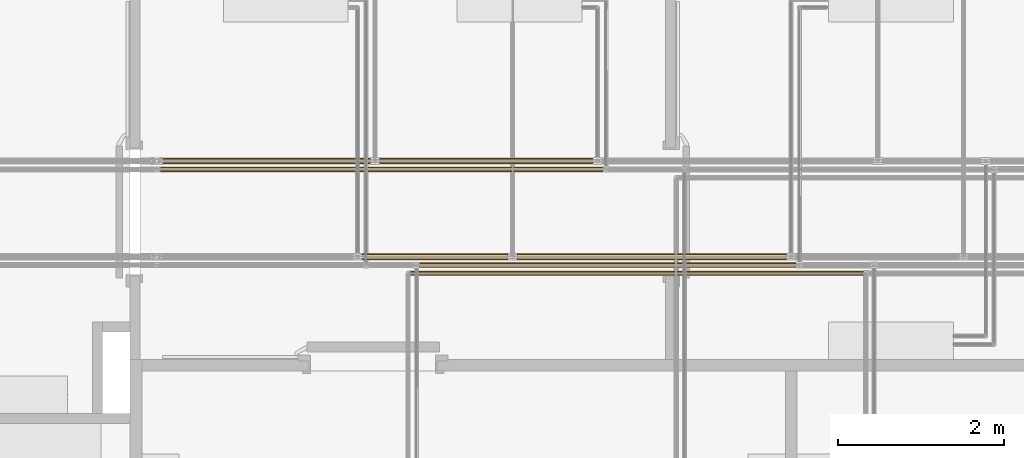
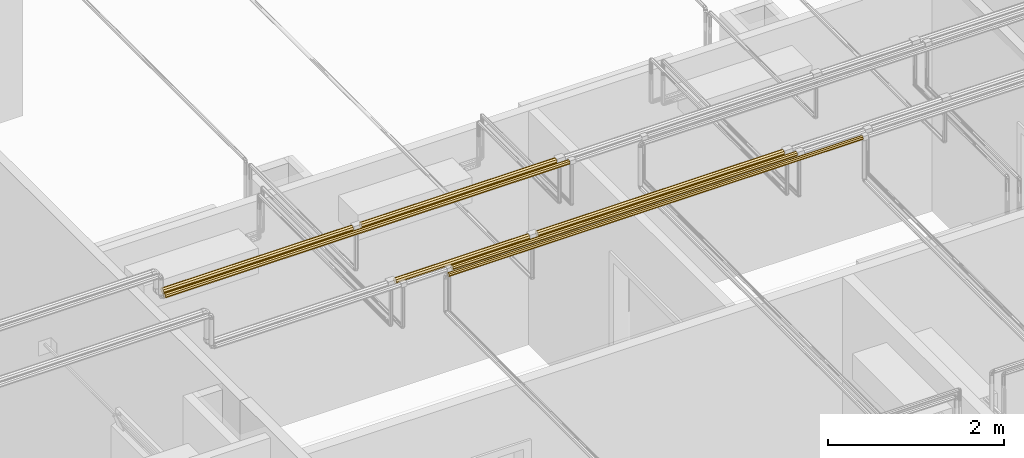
# One storey, part 89 of 652: 7 coverings.
"""IFC2X3 building model written with IfcOpenShell, lengths in millimetres."""

from ifc_helpers import new_model, entity, si_unit, converted_unit, direction, frame, origin, place, context, subcontext, project, spatial, faceted_brep, material, type_object, element, save


model = new_model("IFC2X3")

# Units and contexts
model_context = context("Model", 3, precision=0.01, world=frame((0.0, 0.0, 308426.39999999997)), true_north=direction((6.123233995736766e-17, 1.0)))
plan_context = context("Plan", 3, precision=0.01, world=frame((0.0, 0.0, 308426.39999999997)), true_north=direction((6.123233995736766e-17, 1.0)))
body_context = subcontext(model_context, "Body", "Model", "MODEL_VIEW")
ifc_project = project(units=[si_unit("LENGTHUNIT", "METRE", prefix="MILLI"), si_unit("AREAUNIT", "SQUARE_METRE"), si_unit("VOLUMEUNIT", "CUBIC_METRE"), converted_unit("PLANEANGLEUNIT", "DEGREE", entity("IfcPlaneAngleMeasure", 0.017453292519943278), si_unit("PLANEANGLEUNIT", "RADIAN"), dimensions=[0, 0, 0, 0, 0, 0, 0])], contexts=[model_context, plan_context])

# Site, building, storey
site_placement = place(None, origin())
site = spatial("IfcSite", under=ifc_project, at=site_placement, Name="Default", CompositionType="ELEMENT")
building_placement = place(site_placement, origin())
building = spatial("IfcBuilding", under=site, at=building_placement, CompositionType="ELEMENT")
storey_placement = place(building_placement, frame((0.0, 0.0, 1730.6999999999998)))
storey = spatial("IfcBuildingStorey", under=building, at=storey_placement, Name="EG_Produktion_FFB", CompositionType="ELEMENT", Elevation=1730.6999999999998)

# Coverings
ifc_material = material(Name="Dämmung - Armaflex-Schlauch")
covering_type = type_object("IfcCoveringType", Name="Rohrdämmung außen:Armaflex-Schlauch", PredefinedType="INSULATION")
covering_1_placement = place(storey_placement, frame((22625.726571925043, 59818.292227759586, 3868.292227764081)))
element("IfcCovering", 1, at=covering_1_placement, inside=storey, type_object=covering_type, material=ifc_material, Name="Rohrdämmung außen:Armaflex-Schlauch", ObjectType="Rohrdämmung außen:Armaflex-Schlauch", PredefinedType="INSULATION", context=body_context, shape_type="Brep", body=[
    faceted_brep([(4527.2251780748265, 61.82027223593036, 31.70777223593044), (4527.2251780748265, 59.165835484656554, 38.11614944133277), (4527.2251780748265, 57.410398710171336, 42.35414871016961), (4527.2251780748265, 55.205461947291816, 47.67733694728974), (4527.2251780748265, 53.000525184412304, 53.00052518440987), (4527.2251780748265, 47.67733694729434, 55.205461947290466), (4527.2251780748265, 42.35414871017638, 57.41039871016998), (4527.2251780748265, 37.03096047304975, 59.61533547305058), (4527.2251780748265, 31.707772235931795, 61.82027223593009), (4527.2251780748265, 25.299395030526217, 59.16583548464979), (4527.2251780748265, 21.06139576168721, 57.41039871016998), (4527.225178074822, 15.738207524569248, 55.20546194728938), (4527.2251780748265, 10.415019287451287, 53.00052518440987), (4527.225178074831, 8.210082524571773, 47.67733694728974), (4527.2251780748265, 6.005145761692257, 42.35414871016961), (4527.2251780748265, 3.800208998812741, 37.03096047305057), (4527.2251780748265, 1.5952722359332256, 31.70777223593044), (4527.2251780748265, 3.800208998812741, 26.384583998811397), (4527.2251780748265, 6.005145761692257, 21.06139576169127), (4527.225178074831, 8.210082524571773, 15.738207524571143), (4527.2251780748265, 10.415019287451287, 10.415019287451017), (4527.2251780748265, 15.738207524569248, 8.2100825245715), (4527.2251780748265, 21.06139576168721, 6.005145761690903), (4527.225178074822, 26.38458399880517, 3.8002089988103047), (4527.2251780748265, 31.707772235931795, 1.5952722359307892), (4527.2251780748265, 38.11614944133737, 4.249708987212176), (4527.2251780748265, 42.35414871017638, 6.005145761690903), (4527.2251780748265, 47.67733694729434, 8.2100825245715), (4527.2251780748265, 53.000525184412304, 10.415019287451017), (4527.2251780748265, 55.205461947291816, 15.738207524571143), (4527.2251780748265, 57.410398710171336, 21.06139576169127), (4527.225178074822, 59.61533547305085, 26.384583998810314), (0.0, 47.677336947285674, 8.210082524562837), (0.0, 42.35414871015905, 6.005145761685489), (0.0, 37.03096047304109, 3.800208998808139), (0.0, 31.70777223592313, 1.595272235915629), (0.0, 25.29939503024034, 4.249708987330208), (0.0, 18.891017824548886, 6.904145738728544), (0.0, 10.415019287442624, 10.415019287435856), (0.0, 8.210082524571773, 15.738207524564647), (0.0, 6.005145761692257, 21.061395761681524), (0.0, 3.800208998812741, 26.3845839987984), (0.0, 1.5952722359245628, 31.707772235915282), (0.0, 4.249708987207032, 38.116149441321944), (0.0, 6.904145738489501, 44.524526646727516), (0.0, 10.415019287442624, 53.000525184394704), (0.0, 15.738207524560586, 55.20546194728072), (0.0, 21.06139576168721, 57.410398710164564), (0.0, 26.38458399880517, 59.61533547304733), (0.0, 31.70777223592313, 61.820272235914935), (0.0, 38.11614944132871, 59.16583548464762), (0.0, 44.52452664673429, 56.511398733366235), (0.0, 53.000525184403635, 53.000525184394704), (0.0, 55.205461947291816, 47.677336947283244), (0.0, 57.410398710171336, 42.35414871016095), (0.0, 59.61533547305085, 37.030960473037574), (0.0, 61.8202722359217, 31.707772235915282), (0.0, 59.16583548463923, 25.29939503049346), (0.0, 56.511398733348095, 18.89101782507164), (0.0, 53.000525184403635, 10.415019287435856)], [[[0, 1, 2, 3, 4, 5, 6, 7, 8, 9, 10, 11, 12, 13, 14, 15, 16, 17, 18, 19, 20, 21, 22, 23, 24, 25, 26, 27, 28, 29, 30, 31]], [[32, 33, 34, 35, 36, 37, 38, 39, 40, 41, 42, 43, 44, 45, 46, 47, 48, 49, 50, 51, 52, 53, 54, 55, 56, 57, 58, 59]], [[40, 39, 38, 20, 19, 18, 17, 16, 42, 41]], [[38, 37, 36, 35, 24, 23, 22, 21, 20]], [[56, 0, 31, 30, 29, 28, 59, 58, 57]], [[27, 26, 25, 24, 35, 34, 33, 32, 59, 28]], [[49, 8, 7, 6, 5, 4, 52, 51, 50]], [[3, 2, 1, 0, 56, 55, 54, 53, 52, 4]], [[42, 16, 15, 14, 13, 12, 45, 44, 43]], [[11, 10, 9, 8, 49, 48, 47, 46, 45, 12]]]),
])
covering_2_placement = place(storey_placement, frame((19516.017249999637, 60968.29222776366, 3868.2922277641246)))
element("IfcCovering", 2, at=covering_2_placement, inside=storey, type_object=covering_type, material=ifc_material, Name="Rohrdämmung außen:Armaflex-Schlauch", ObjectType="Rohrdämmung außen:Armaflex-Schlauch", PredefinedType="INSULATION", context=body_context, shape_type="Brep", body=[
    faceted_brep([(5312.723077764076, 61.82027223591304, 31.70777223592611), (5312.723077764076, 59.55829985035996, 37.16865664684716), (5312.723077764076, 57.410398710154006, 42.35414871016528), (5312.723077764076, 55.205461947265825, 47.677336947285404), (5312.723077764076, 53.000525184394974, 53.00052518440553), (5312.723077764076, 47.67733694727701, 55.20546194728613), (5312.723077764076, 42.35414871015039, 57.410398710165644), (5312.723077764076, 37.16865664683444, 59.55829985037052), (5312.723077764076, 31.70777223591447, 61.82027223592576), (5312.723077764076, 26.2468878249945, 59.55829985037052), (5312.723077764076, 21.061395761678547, 57.410398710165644), (5312.723077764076, 15.738207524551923, 55.20546194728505), (5312.723077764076, 10.415019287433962, 53.00052518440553), (5312.723077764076, 8.210082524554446, 47.677336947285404), (5312.723077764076, 6.005145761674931, 42.35414871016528), (5312.723077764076, 3.8572446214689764, 37.16865664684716), (5312.723077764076, 1.5952722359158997, 31.70777223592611), (5312.723077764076, 3.8002089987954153, 26.384583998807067), (5312.723077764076, 6.005145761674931, 21.06139576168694), (5312.723077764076, 8.210082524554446, 15.738207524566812), (5312.723077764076, 10.415019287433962, 10.415019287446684), (5312.723077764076, 15.738207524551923, 8.21008252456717), (5312.723077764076, 21.061395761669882, 6.005145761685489), (5312.723077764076, 26.246887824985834, 3.8572446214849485), (5312.723077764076, 31.70777223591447, 1.5952722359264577), (5312.723077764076, 37.16865664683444, 3.8572446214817), (5312.723077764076, 42.35414871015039, 6.005145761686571), (5312.723077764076, 47.67733694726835, 8.210082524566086), (5312.723077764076, 53.000525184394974, 10.415019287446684), (5312.723077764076, 55.20546194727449, 15.738207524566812), (5312.723077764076, 57.410398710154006, 21.06139576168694), (5312.723077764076, 59.55829985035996, 26.246887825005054), (0.0, 47.677336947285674, 8.210082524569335), (0.0, 42.35414871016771, 6.005145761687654), (0.0, 37.03096047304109, 3.800208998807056), (0.0, 31.707772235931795, 1.595272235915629), (0.0, 26.246887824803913, 3.857244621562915), (0.0, 20.78600341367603, 6.119217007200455), (0.0, 15.600511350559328, 8.267118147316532), (0.0, 10.415019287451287, 10.415019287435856), (0.0, 8.210082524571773, 15.738207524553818), (0.0, 6.005145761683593, 21.061395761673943), (0.0, 3.8002089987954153, 26.38458399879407), (0.0, 1.5952722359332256, 31.707772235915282), (0.0, 3.8572446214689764, 37.16865664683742), (0.0, 6.119217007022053, 42.62954105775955), (0.0, 8.267118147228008, 47.81503312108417), (0.0, 10.415019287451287, 53.000525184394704), (0.0, 15.738207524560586, 55.20546194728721), (0.0, 21.061395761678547, 57.41039871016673), (0.0, 26.38458399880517, 59.615335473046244), (0.0, 31.707772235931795, 61.820272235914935), (0.0, 37.168656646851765, 59.55829985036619), (0.0, 42.6295410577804, 57.296327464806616), (0.0, 47.81503312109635, 55.148426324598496), (0.0, 53.000525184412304, 53.000525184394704), (0.0, 55.205461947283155, 47.677336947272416), (0.0, 57.41039871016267, 42.35414871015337), (0.0, 59.61533547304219, 37.03096047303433), (0.0, 61.82027223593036, 31.707772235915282), (0.0, 59.5582998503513, 26.246887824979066), (0.0, 57.296327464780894, 20.786003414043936), (0.0, 55.148426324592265, 15.600511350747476), (0.0, 53.000525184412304, 10.415019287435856)], [[[0, 1, 2, 3, 4, 5, 6, 7, 8, 9, 10, 11, 12, 13, 14, 15, 16, 17, 18, 19, 20, 21, 22, 23, 24, 25, 26, 27, 28, 29, 30, 31]], [[32, 33, 34, 35, 36, 37, 38, 39, 40, 41, 42, 43, 44, 45, 46, 47, 48, 49, 50, 51, 52, 53, 54, 55, 56, 57, 58, 59, 60, 61, 62, 63]], [[41, 40, 39, 20, 19, 18, 17, 16, 43, 42]], [[20, 39, 38, 37, 36, 35, 24, 23, 22, 21]], [[24, 35, 34, 33, 32, 63, 28, 27, 26, 25]], [[28, 63, 62, 61, 60, 59, 0, 31, 30, 29]], [[0, 59, 58, 57, 56, 55, 4, 3, 2, 1]], [[4, 55, 54, 53, 52, 51, 8, 7, 6, 5]], [[8, 51, 50, 49, 48, 47, 12, 11, 10, 9]], [[12, 47, 46, 45, 44, 43, 16, 15, 14, 13]]]),
])
covering_3_placement = place(storey_placement, frame((23799.63222359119, 59911.942227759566, 3861.9422277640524)))
element("IfcCovering", 3, at=covering_3_placement, inside=storey, type_object=covering_type, material=ifc_material, Name="Rohrdämmung außen:Armaflex-Schlauch", ObjectType="Rohrdämmung außen:Armaflex-Schlauch", PredefinedType="INSULATION", context=body_context, shape_type="Brep", body=[
    faceted_brep([(3235.9205264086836, 74.52027223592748, 38.057772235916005), (3235.920526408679, 72.04612193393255, 44.03089945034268), (3235.9205264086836, 69.180462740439, 50.949212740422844), (3235.9205264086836, 66.51055799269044, 57.39493299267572), (3235.9205264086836, 63.84065324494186, 63.84065324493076), (3235.9205264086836, 57.394932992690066, 66.51055799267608), (3235.9205264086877, 50.94921274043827, 69.18046274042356), (3235.9205264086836, 44.50349248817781, 71.85036748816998), (3235.9205264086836, 38.057772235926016, 74.52027223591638), (3235.9205264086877, 32.084645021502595, 72.04612193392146), (3235.9205264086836, 25.166331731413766, 69.18046274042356), (3235.9205264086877, 18.720611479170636, 66.51055799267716), (3235.9205264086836, 12.274891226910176, 63.84065324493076), (3235.9205264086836, 9.604986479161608, 57.3949329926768), (3235.9205264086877, 6.935081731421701, 50.949212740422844), (3235.9205264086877, 4.265176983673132, 44.50349248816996), (3235.9205264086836, 1.5952722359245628, 38.057772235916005), (3235.9205264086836, 4.265176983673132, 31.612051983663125), (3235.9205264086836, 6.935081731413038, 25.166331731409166), (3235.920526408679, 9.604986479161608, 18.720611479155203), (3235.9205264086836, 12.274891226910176, 12.274891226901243), (3235.9205264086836, 18.72061147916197, 9.60498647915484), (3235.9205264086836, 25.166331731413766, 6.935081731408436), (3235.920526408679, 31.612051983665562, 4.265176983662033), (3235.9205264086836, 38.057772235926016, 1.595272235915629), (3235.9205264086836, 44.030899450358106, 4.069422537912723), (3235.9205264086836, 50.94921274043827, 6.935081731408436), (3235.9205264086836, 57.394932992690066, 9.604986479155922), (3235.9205264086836, 63.84065324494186, 12.274891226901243), (3235.9205264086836, 66.51055799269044, 18.720611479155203), (3235.9205264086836, 69.180462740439, 25.166331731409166), (3235.9205264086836, 71.8503674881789, 31.612051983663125), (0.0, 57.394932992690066, 9.60498647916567), (0.0, 50.94921274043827, 6.935081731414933), (0.0, 44.50349248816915, 4.265176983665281), (0.0, 38.057772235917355, 1.5952722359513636), (0.0, 32.08464502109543, 4.069422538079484), (0.0, 26.111517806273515, 6.543572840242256), (0.0, 19.193204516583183, 9.40923203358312), (0.0, 12.274891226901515, 12.274891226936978), (0.0, 9.604986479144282, 18.720611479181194), (0.0, 6.935081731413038, 25.166331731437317), (0.0, 4.265176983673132, 31.61205198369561), (0.0, 1.5952722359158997, 38.05777223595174), (0.0, 4.069422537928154, 44.03089945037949), (0.0, 6.543572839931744, 50.00402666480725), (0.0, 9.409232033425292, 56.922339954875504), (0.0, 12.274891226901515, 63.8406532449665), (0.0, 18.720611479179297, 66.51055799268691), (0.0, 25.166331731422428, 69.18046274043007), (0.0, 31.612051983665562, 71.85036748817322), (0.0, 38.057772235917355, 74.5202722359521), (0.0, 44.030899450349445, 72.04612193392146), (0.0, 50.004026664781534, 69.57197163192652), (0.0, 56.92233995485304, 66.70631243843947), (0.0, 63.8406532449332, 63.8406532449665), (0.0, 66.5105579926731, 57.394932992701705), (0.0, 69.18046274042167, 50.94921274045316), (0.0, 71.85036748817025, 44.50349248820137), (0.0, 74.52027223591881, 38.05777223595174), (0.0, 72.04612193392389, 32.084645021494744), (0.0, 69.57197163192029, 26.11151780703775), (0.0, 66.7063124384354, 19.193204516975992), (0.0, 63.8406532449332, 12.274891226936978)], [[[0, 1, 2, 3, 4, 5, 6, 7, 8, 9, 10, 11, 12, 13, 14, 15, 16, 17, 18, 19, 20, 21, 22, 23, 24, 25, 26, 27, 28, 29, 30, 31]], [[32, 33, 34, 35, 36, 37, 38, 39, 40, 41, 42, 43, 44, 45, 46, 47, 48, 49, 50, 51, 52, 53, 54, 55, 56, 57, 58, 59, 60, 61, 62, 63]], [[41, 40, 39, 20, 19, 18, 17, 16, 43, 42]], [[37, 36, 35, 24, 23, 22, 21, 20, 39, 38]], [[25, 24, 35, 34, 33, 32, 63, 28, 27, 26]], [[28, 63, 62, 61, 60, 59, 0, 31, 30, 29]], [[1, 0, 59, 58, 57, 56, 55, 4, 3, 2]], [[4, 55, 54, 53, 52, 51, 8, 7, 6, 5]], [[9, 8, 51, 50, 49, 48, 47, 12, 11, 10]], [[12, 47, 46, 45, 44, 43, 16, 15, 14, 13]]]),
])
covering_4_placement = place(storey_placement, frame((22146.75968313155, 61061.942227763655, 3861.942227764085)))
element("IfcCovering", 4, at=covering_4_placement, inside=storey, type_object=covering_type, material=ifc_material, Name="Rohrdämmung außen:Armaflex-Schlauch", ObjectType="Rohrdämmung außen:Armaflex-Schlauch", PredefinedType="INSULATION", context=body_context, shape_type="Brep", body=[
    faceted_brep([(2564.581644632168, 74.52027223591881, 38.0577722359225), (2564.581644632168, 71.39845555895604, 45.594504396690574), (2564.581644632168, 69.18046274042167, 50.94921274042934), (2564.581644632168, 66.51055799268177, 57.3949329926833), (2564.581644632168, 63.8406532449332, 63.84065324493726), (2564.581644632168, 57.39493299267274, 66.51055799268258), (2564.581644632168, 50.94921274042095, 69.18046274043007), (2564.581644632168, 44.50349248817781, 71.85036748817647), (2564.581644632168, 38.057772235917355, 74.52027223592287), (2564.581644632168, 30.52104007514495, 71.39845555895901), (2564.581644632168, 25.166331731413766, 69.18046274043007), (2564.581644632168, 18.72061147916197, 66.51055799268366), (2564.581644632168, 12.274891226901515, 63.84065324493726), (2564.581644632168, 9.604986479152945, 57.3949329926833), (2564.581644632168, 6.935081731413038, 50.94921274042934), (2564.581644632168, 4.265176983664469, 44.503492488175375), (2564.581644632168, 1.5952722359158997, 38.0577722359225), (2564.581644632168, 4.265176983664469, 31.612051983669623), (2564.581644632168, 6.935081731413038, 25.16633173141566), (2564.581644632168, 9.604986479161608, 18.7206114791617), (2564.581644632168, 12.274891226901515, 12.27489122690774), (2564.581644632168, 18.72061147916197, 9.604986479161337), (2564.581644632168, 25.166331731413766, 6.935081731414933), (2564.581644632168, 31.612051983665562, 4.26517698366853), (2564.581644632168, 38.057772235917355, 1.5952722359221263), (2564.581644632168, 45.594504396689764, 4.717088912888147), (2564.581644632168, 50.94921274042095, 6.935081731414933), (2564.581644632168, 57.394932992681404, 9.60498647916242), (2564.581644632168, 63.8406532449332, 12.27489122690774), (2564.581644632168, 66.5105579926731, 18.7206114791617), (2564.581644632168, 69.18046274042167, 25.16633173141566), (2564.581644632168, 71.85036748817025, 31.61205198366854), (0.0, 57.39493299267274, 9.604986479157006), (0.0, 50.94921274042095, 6.935081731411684), (0.0, 44.50349248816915, 4.265176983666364), (0.0, 38.05777223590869, 1.595272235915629), (0.0, 30.52104007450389, 4.717088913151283), (0.0, 22.984307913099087, 7.83890559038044), (0.0, 12.274891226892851, 12.274891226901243), (0.0, 9.604986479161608, 18.7206114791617), (0.0, 6.935081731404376, 25.166331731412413), (0.0, 4.265176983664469, 31.61205198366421), (0.0, 1.5952722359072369, 38.057772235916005), (0.0, 4.717088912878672, 45.594504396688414), (0.0, 7.838905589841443, 53.131236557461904), (0.0, 12.274891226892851, 63.84065324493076), (0.0, 18.720611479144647, 66.51055799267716), (0.0, 25.16633173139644, 69.18046274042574), (0.0, 31.612051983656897, 71.8503674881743), (0.0, 38.05777223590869, 74.52027223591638), (0.0, 45.594504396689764, 71.39845555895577), (0.0, 53.131236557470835, 68.27663888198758), (0.0, 63.84065324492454, 63.84065324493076), (0.0, 66.51055799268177, 57.394932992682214), (0.0, 69.18046274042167, 50.94921274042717), (0.0, 71.8503674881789, 44.50349248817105), (0.0, 74.52027223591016, 38.057772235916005), (0.0, 71.39845555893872, 30.521040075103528), (0.0, 68.27663888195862, 22.984307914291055), (0.0, 63.84065324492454, 12.274891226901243)], [[[0, 1, 2, 3, 4, 5, 6, 7, 8, 9, 10, 11, 12, 13, 14, 15, 16, 17, 18, 19, 20, 21, 22, 23, 24, 25, 26, 27, 28, 29, 30, 31]], [[32, 33, 34, 35, 36, 37, 38, 39, 40, 41, 42, 43, 44, 45, 46, 47, 48, 49, 50, 51, 52, 53, 54, 55, 56, 57, 58, 59]], [[40, 39, 38, 20, 19, 18, 17, 16, 42, 41]], [[38, 37, 36, 35, 24, 23, 22, 21, 20]], [[56, 0, 31, 30, 29, 28, 59, 58, 57]], [[27, 26, 25, 24, 35, 34, 33, 32, 59, 28]], [[49, 8, 7, 6, 5, 4, 52, 51, 50]], [[3, 2, 1, 0, 56, 55, 54, 53, 52, 4]], [[42, 16, 15, 14, 13, 12, 45, 44, 43]], [[11, 10, 9, 8, 49, 48, 47, 46, 45, 12]]]),
])
covering_5_placement = place(storey_placement, frame((22520.662071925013, 59721.467227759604, 3871.4672277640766)))
element("IfcCovering", 5, at=covering_5_placement, inside=storey, type_object=covering_type, material=ifc_material, Name="Rohrdämmung außen:Armaflex-Schlauch", ObjectType="Rohrdämmung außen:Armaflex-Schlauch", PredefinedType="INSULATION", context=body_context, shape_type="Brep", body=[
    faceted_brep([(5439.667500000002, 9.485083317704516, 9.485083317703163), (5439.667500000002, 14.247005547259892, 7.512630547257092), (5439.667500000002, 19.008927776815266, 5.540177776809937), (5439.667500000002, 23.770850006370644, 3.567725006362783), (5439.667500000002, 28.532772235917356, 1.595272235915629), (5439.667500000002, 33.045337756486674, 3.464438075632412), (5439.667500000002, 38.05661669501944, 5.540177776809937), (5439.667500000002, 42.81853892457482, 7.512630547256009), (5439.667500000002, 47.5804611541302, 9.485083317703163), (5439.667500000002, 49.552913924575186, 14.247005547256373), (5439.667500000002, 51.525366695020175, 19.008927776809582), (5439.667500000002, 53.497819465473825, 23.770850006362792), (5439.667500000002, 55.47027223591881, 28.532772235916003), (5439.667500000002, 53.60110639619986, 33.04533775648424), (5439.667500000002, 51.525366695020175, 38.05661669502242), (5439.667500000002, 49.552913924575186, 42.818538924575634), (5439.667500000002, 47.5804611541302, 47.58046115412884), (5439.667500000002, 42.818538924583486, 49.552913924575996), (5439.667500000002, 38.05661669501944, 51.525366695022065), (5439.667500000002, 33.29469446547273, 53.49781946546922), (5439.667500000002, 28.532772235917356, 55.470272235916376), (5439.667500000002, 24.020206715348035, 53.60110639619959), (5439.667500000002, 19.008927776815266, 51.525366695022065), (5439.667500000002, 14.247005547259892, 49.552913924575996), (5439.667500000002, 9.485083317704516, 47.58046115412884), (5439.667500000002, 7.512630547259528, 42.818538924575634), (5439.667500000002, 5.54017777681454, 38.05661669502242), (5439.667500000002, 3.567725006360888, 33.29469446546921), (5439.667500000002, 1.5952722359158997, 28.532772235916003), (5439.667500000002, 3.567725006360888, 23.770850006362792), (5439.667500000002, 5.54017777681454, 19.008927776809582), (5439.667500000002, 7.512630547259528, 14.247005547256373), (0.0, 47.58046115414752, 47.58046115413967), (0.0, 49.55291392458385, 42.818538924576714), (0.0, 51.525366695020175, 38.05661669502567), (0.0, 53.497819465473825, 33.294694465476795), (0.0, 55.470272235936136, 28.53277223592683), (0.0, 53.60110639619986, 24.0202067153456), (0.0, 51.731940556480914, 19.507641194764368), (0.0, 49.65620085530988, 14.496362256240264), (0.0, 47.58046115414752, 9.485083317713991), (0.0, 42.81853892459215, 7.512630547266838), (0.0, 38.05661669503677, 5.540177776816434), (0.0, 33.29469446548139, 3.567725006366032), (0.0, 28.532772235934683, 1.5952722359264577), (0.0, 24.020206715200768, 3.464438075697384), (0.0, 19.507641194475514, 5.333603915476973), (0.0, 14.496362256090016, 7.409343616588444), (0.0, 9.485083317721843, 9.485083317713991), (0.0, 7.512630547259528, 14.247005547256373), (0.0, 5.54017777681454, 19.008927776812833), (0.0, 3.567725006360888, 23.770850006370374), (0.0, 1.5952722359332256, 28.53277223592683), (0.0, 3.4644380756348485, 33.045337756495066), (0.0, 5.333603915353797, 37.5579032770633), (0.0, 7.409343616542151, 42.569182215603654), (0.0, 9.485083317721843, 47.58046115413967), (0.0, 14.247005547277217, 49.552913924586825), (0.0, 19.008927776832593, 51.525366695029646), (0.0, 23.77085000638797, 53.497819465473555), (0.0, 28.532772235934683, 55.470272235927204), (0.0, 33.045337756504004, 53.60110639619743), (0.0, 37.55790327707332, 51.73194055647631), (0.0, 42.56918221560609, 49.65620085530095)], [[[0, 1, 2, 3, 4, 5, 6, 7, 8, 9, 10, 11, 12, 13, 14, 15, 16, 17, 18, 19, 20, 21, 22, 23, 24, 25, 26, 27, 28, 29, 30, 31]], [[32, 33, 34, 35, 36, 37, 38, 39, 40, 41, 42, 43, 44, 45, 46, 47, 48, 49, 50, 51, 52, 53, 54, 55, 56, 57, 58, 59, 60, 61, 62, 63]], [[50, 49, 48, 0, 31, 30, 29, 28, 52, 51]], [[46, 45, 44, 4, 3, 2, 1, 0, 48, 47]], [[5, 4, 44, 43, 42, 41, 40, 8, 7, 6]], [[8, 40, 39, 38, 37, 36, 12, 11, 10, 9]], [[13, 12, 36, 35, 34, 33, 32, 16, 15, 14]], [[16, 32, 63, 62, 61, 60, 20, 19, 18, 17]], [[21, 20, 60, 59, 58, 57, 56, 24, 23, 22]], [[24, 56, 55, 54, 53, 52, 28, 27, 26, 25]]]),
])
covering_6_placement = place(storey_placement, frame((19544.08424999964, 61061.942227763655, 3938.0577722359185)))
element("IfcCovering", 6, at=covering_6_placement, inside=storey, type_object=covering_type, material=ifc_material, Name="Rohrdämmung außen:Armaflex-Schlauch", ObjectType="Rohrdämmung außen:Armaflex-Schlauch", PredefinedType="INSULATION", context=body_context, shape_type="Brep", body=[
    faceted_brep([(2493.78093313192, 74.52027223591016, -38.057772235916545), (2493.78093313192, 71.30982434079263, -30.307065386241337), (2493.78093313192, 69.18046274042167, -25.166331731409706), (2493.78093313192, 66.5105579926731, -18.720611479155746), (2493.78093313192, 63.84065324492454, -12.274891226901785), (2493.78093313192, 57.39493299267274, -9.604986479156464), (2493.78093313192, 50.94921274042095, -6.935081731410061), (2493.78093313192, 44.50349248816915, -4.265176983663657), (2493.78093313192, 38.05777223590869, -1.5952722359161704), (2493.78093313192, 30.307065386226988, -4.805720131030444), (2493.78093313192, 25.16633173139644, -6.935081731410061), (2493.78093313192, 18.720611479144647, -9.60498647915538), (2493.78093313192, 12.274891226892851, -12.274891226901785), (2493.78093313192, 9.604986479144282, -18.72061147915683), (2493.78093313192, 6.935081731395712, -25.166331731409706), (2493.78093313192, 4.265176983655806, -31.612051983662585), (2493.78093313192, 1.5952722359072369, -38.057772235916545), (2493.78093313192, 4.265176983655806, -44.50349248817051), (2493.78093313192, 6.935081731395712, -50.949212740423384), (2493.78093313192, 9.604986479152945, -57.39493299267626), (2493.78093313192, 12.274891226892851, -63.8406532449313), (2493.78093313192, 18.72061147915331, -66.51055799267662), (2493.78093313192, 25.16633173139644, -69.18046274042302), (2493.78093313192, 31.612051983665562, -71.85036748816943), (2493.78093313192, 38.05777223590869, -74.52027223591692), (2493.78093313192, 45.8084790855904, -71.30982434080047), (2493.78093313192, 50.94921274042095, -69.18046274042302), (2493.78093313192, 57.39493299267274, -66.51055799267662), (2493.78093313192, 63.84065324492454, -63.8406532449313), (2493.78093313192, 66.5105579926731, -57.39493299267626), (2493.78093313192, 69.18046274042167, -50.949212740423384), (2493.78093313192, 71.85036748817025, -44.50349248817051), (0.0, 57.39493299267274, -66.5105579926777), (0.0, 50.94921274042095, -69.1804627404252), (0.0, 44.50349248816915, -71.85036748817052), (0.0, 38.057772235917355, -74.52027223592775), (0.0, 30.307065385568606, -71.30982434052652), (0.0, 22.556358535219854, -68.09937644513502), (0.0, 12.274891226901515, -63.84065324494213), (0.0, 9.604986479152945, -57.39493299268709), (0.0, 6.935081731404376, -50.949212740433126), (0.0, 4.265176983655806, -44.50349248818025), (0.0, 1.5952722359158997, -38.057772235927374), (0.0, 4.805720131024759, -30.30706538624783), (0.0, 8.016168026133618, -22.556358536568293), (0.0, 12.274891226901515, -12.274891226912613), (0.0, 18.720611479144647, -9.604986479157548), (0.0, 25.166331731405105, -6.935081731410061), (0.0, 31.612051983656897, -4.265176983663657), (0.0, 38.057772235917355, -1.595272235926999), (0.0, 45.80847908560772, -4.805720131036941), (0.0, 53.55918593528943, -8.016168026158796), (0.0, 63.8406532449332, -12.274891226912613), (0.0, 66.5105579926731, -18.720611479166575), (0.0, 69.18046274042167, -25.166331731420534), (0.0, 71.85036748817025, -31.612051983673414), (0.0, 74.52027223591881, -38.057772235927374), (0.0, 71.30982434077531, -45.80847908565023), (0.0, 68.09937644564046, -53.55918593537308), (0.0, 63.8406532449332, -63.84065324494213)], [[[0, 1, 2, 3, 4, 5, 6, 7, 8, 9, 10, 11, 12, 13, 14, 15, 16, 17, 18, 19, 20, 21, 22, 23, 24, 25, 26, 27, 28, 29, 30, 31]], [[32, 33, 34, 35, 36, 37, 38, 39, 40, 41, 42, 43, 44, 45, 46, 47, 48, 49, 50, 51, 52, 53, 54, 55, 56, 57, 58, 59]], [[40, 39, 38, 20, 19, 18, 17, 16, 42, 41]], [[38, 37, 36, 35, 24, 23, 22, 21, 20]], [[56, 0, 31, 30, 29, 28, 59, 58, 57]], [[27, 26, 25, 24, 35, 34, 33, 32, 59, 28]], [[49, 8, 7, 6, 5, 4, 52, 51, 50]], [[3, 2, 1, 0, 56, 55, 54, 53, 52, 4]], [[42, 16, 15, 14, 13, 12, 45, 44, 43]], [[11, 10, 9, 8, 49, 48, 47, 46, 45, 12]]]),
])
covering_7_placement = place(storey_placement, frame((21938.310884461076, 59911.942227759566, 3861.9422277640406)))
element("IfcCovering", 7, at=covering_7_placement, inside=storey, type_object=covering_type, material=ifc_material, Name="Rohrdämmung außen:Armaflex-Schlauch", ObjectType="Rohrdämmung außen:Armaflex-Schlauch", PredefinedType="INSULATION", context=body_context, shape_type="Brep", body=[
    faceted_brep([(1752.4268391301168, 74.52027223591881, 38.05777223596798), (1752.4268391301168, 72.23596753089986, 43.57257163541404), (1752.4268391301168, 69.18046274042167, 50.94921274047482), (1752.4268391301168, 66.51055799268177, 57.394932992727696), (1752.4268391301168, 63.8406532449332, 63.84065324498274), (1752.4268391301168, 57.39493299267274, 66.51055799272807), (1752.4268391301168, 50.94921274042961, 69.18046274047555), (1752.4268391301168, 44.50349248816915, 71.85036748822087), (1752.4268391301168, 38.057772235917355, 74.52027223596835), (1752.4268391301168, 32.542972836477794, 72.23596753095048), (1752.4268391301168, 25.166331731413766, 69.18046274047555), (1752.4268391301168, 18.72061147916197, 66.51055799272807), (1752.4268391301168, 12.274891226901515, 63.84065324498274), (1752.4268391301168, 9.604986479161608, 57.394932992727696), (1752.4268391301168, 6.935081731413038, 50.94921274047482), (1752.4268391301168, 4.265176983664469, 44.503492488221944), (1752.4268391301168, 1.5952722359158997, 38.05777223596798), (1752.4268391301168, 4.265176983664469, 31.61205198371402), (1752.4268391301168, 6.935081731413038, 25.166331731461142), (1752.4268391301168, 9.604986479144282, 18.720611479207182), (1752.4268391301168, 12.274891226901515, 12.27489122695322), (1752.4268391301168, 18.72061147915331, 9.6049864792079), (1752.4268391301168, 25.166331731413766, 6.935081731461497), (1752.4268391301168, 31.612051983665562, 4.26517698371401), (1752.4268391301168, 38.057772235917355, 1.5952722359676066), (1752.4268391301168, 43.572571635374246, 3.8795769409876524), (1752.4268391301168, 50.94921274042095, 6.935081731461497), (1752.4268391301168, 57.394932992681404, 9.6049864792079), (1752.4268391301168, 63.8406532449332, 12.27489122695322), (1752.4268391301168, 66.51055799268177, 18.720611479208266), (1752.4268391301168, 69.18046274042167, 25.166331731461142), (1752.4268391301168, 71.8503674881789, 31.61205198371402), (0.0, 57.39493299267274, 9.604986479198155), (0.0, 50.94921274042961, 6.935081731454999), (0.0, 44.503492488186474, 4.265176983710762), (0.0, 38.05777223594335, 1.595272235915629), (0.0, 27.028173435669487, 6.163881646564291), (0.0, 19.65153233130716, 9.219386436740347), (0.0, 12.274891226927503, 12.274891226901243), (0.0, 9.604986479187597, 18.72061147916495), (0.0, 6.9350817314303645, 25.16633173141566), (0.0, 4.265176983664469, 31.612051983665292), (0.0, 1.5952722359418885, 38.057772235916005), (0.0, 6.163881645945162, 49.08737103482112), (0.0, 9.219386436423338, 56.46401213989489), (0.0, 12.274891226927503, 63.84065324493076), (0.0, 18.72061147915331, 66.5105579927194), (0.0, 25.166331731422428, 69.18046274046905), (0.0, 31.61205198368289, 71.85036748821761), (0.0, 38.05777223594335, 74.52027223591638), (0.0, 49.08737103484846, 69.95166282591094), (0.0, 56.464012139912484, 66.89615803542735), (0.0, 63.840653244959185, 63.84065324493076), (0.0, 66.51055799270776, 57.39493299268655), (0.0, 69.180462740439, 50.94921274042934), (0.0, 71.8503674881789, 44.50349248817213), (0.0, 74.5202722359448, 38.057772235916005), (0.0, 69.9516628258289, 27.02817343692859), (0.0, 66.89615803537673, 19.651532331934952), (0.0, 63.840653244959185, 12.274891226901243)], [[[0, 1, 2, 3, 4, 5, 6, 7, 8, 9, 10, 11, 12, 13, 14, 15, 16, 17, 18, 19, 20, 21, 22, 23, 24, 25, 26, 27, 28, 29, 30, 31]], [[32, 33, 34, 35, 36, 37, 38, 39, 40, 41, 42, 43, 44, 45, 46, 47, 48, 49, 50, 51, 52, 53, 54, 55, 56, 57, 58, 59]], [[40, 39, 38, 20, 19, 18, 17, 16, 42, 41]], [[36, 35, 24, 23, 22, 21, 20, 38, 37]], [[33, 32, 59, 28, 27, 26, 25, 24, 35, 34]], [[28, 59, 58, 57, 56, 0, 31, 30, 29]], [[54, 53, 52, 4, 3, 2, 1, 0, 56, 55]], [[4, 52, 51, 50, 49, 8, 7, 6, 5]], [[47, 46, 45, 12, 11, 10, 9, 8, 49, 48]], [[12, 45, 44, 43, 42, 16, 15, 14, 13]]]),
])

save(model, "model.ifc")
